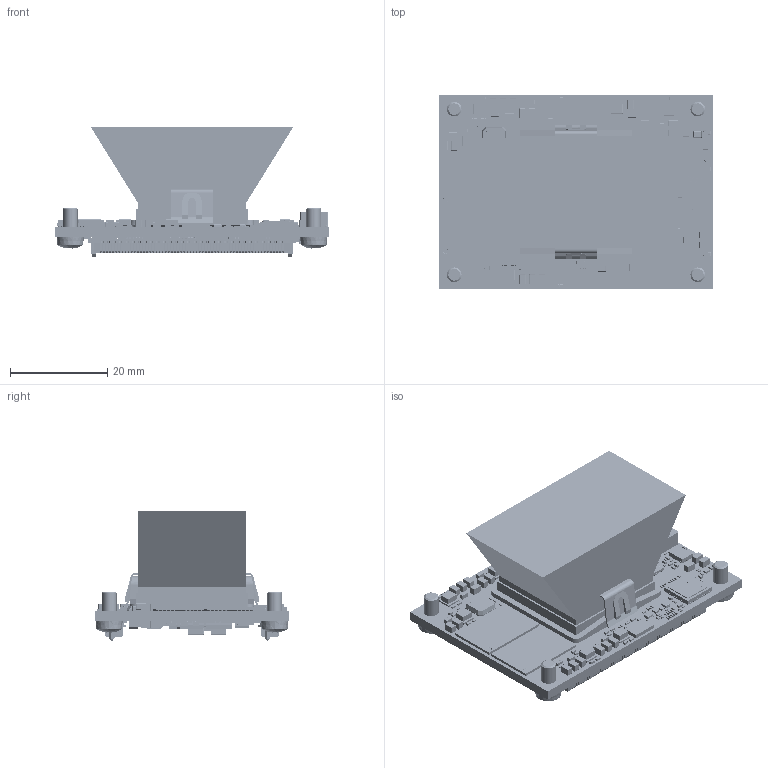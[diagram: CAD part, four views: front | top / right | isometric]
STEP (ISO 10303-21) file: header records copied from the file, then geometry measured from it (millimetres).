
FILE_DESCRIPTION(('Open CASCADE Model'),'2;1');
FILE_NAME('Open CASCADE Shape Model','2025-12-12T12:45:30',('Author'),( 'Open CASCADE'),'Open CASCADE STEP processor 7.5','Open CASCADE 7.5' ,'Unknown');
FILE_SCHEMA(('AUTOMOTIVE_DESIGN { 1 0 10303 214 1 1 1 1 }'));
Length unit declared in the file: millimetre
Products named in the file (732): PCB; Board=projectname; Open CASCADE STEP translator 7.5 4.1.1; R199=projectname; RES_0603-0201; R198=projectname; R197=projectname; 8770154544; R196=projectname; U37=projectname; 24730486816; R172=projectname; R171=projectname; R159=projectname; C337=projectname; User Library-SMD 0201 CAPACITOR; C336=projectname; R170=projectname; R168=projectname; R106=projectname; C194=projectname; User Library-SMD CAPACITOR0402; R53=projectname; C171=projectname; R48=projectname; C39=projectname; C35=projectname; C219=projectname; 8770155904; C218=projectname; C207=projectname; 8770155744; C206=projectname; C200=projectname; 8770153664; C199=projectname; C193=projectname; C192=projectname; C66=projectname; C65=projectname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
Assembly tree (1286 placements, depth 4):
  PCB
    Board=projectname
      Open CASCADE STEP translator 7.5 4.1.1
    R199=projectname
      RES_0603-0201
    R198=projectname
      RES_0603-0201
    R197=projectname
      8770154544
    R196=projectname
      8770154544
    U37=projectname
      24730486816
    R172=projectname
      RES_0603-0201
    R171=projectname
      RES_0603-0201
    R159=projectname
      RES_0603-0201
    C337=projectname
      User Library-SMD 0201 CAPACITOR
    C336=projectname
      User Library-SMD 0201 CAPACITOR
    R170=projectname
      RES_0603-0201
    R168=projectname
      RES_0603-0201
    R106=projectname
      RES_0603-0201
    C194=projectname
      User Library-SMD CAPACITOR0402
    R53=projectname
      RES_0603-0201
    C171=projectname
      User Library-SMD CAPACITOR0402
    R48=projectname
      RES_0603-0201
    C39=projectname
      User Library-SMD 0201 CAPACITOR
    C35=projectname
      User Library-SMD 0201 CAPACITOR
    C219=projectname
      8770155904
    C218=projectname
      8770155904
    C207=projectname
      8770155744
    C206=projectname
      8770155744
    C200=projectname
      8770153664
    C199=projectname
      8770153664
    C193=projectname
      8770155744
    C192=projectname
      8770153664
    C66=projectname
      8770155904
    C65=projectname
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Bounding box: 56.4 x 40 x 26.56 mm (x, y, z)
Volume: 22321 mm3; surface area: 22008.5 mm2
Topology: 2288 solids, 2292 shells, 47485 faces, 118429 edges, 72828 vertices
Faces by surface type: plane 30513, cylinder 11181, sphere 4598, bspline 1119, torus 44, cone 30
Full cylindrical faces by diameter (mm): 0.4 x12, 0.8 x3, 1 x6, 3.2 x4
Entity records: 491862 total; most frequent: CARTESIAN_POINT 92326, ORIENTED_EDGE 64042, DIRECTION 59368, EDGE_CURVE 32021, LINE 24696, VECTOR 24696, VERTEX_POINT 21746, AXIS2_PLACEMENT_3D 17336
